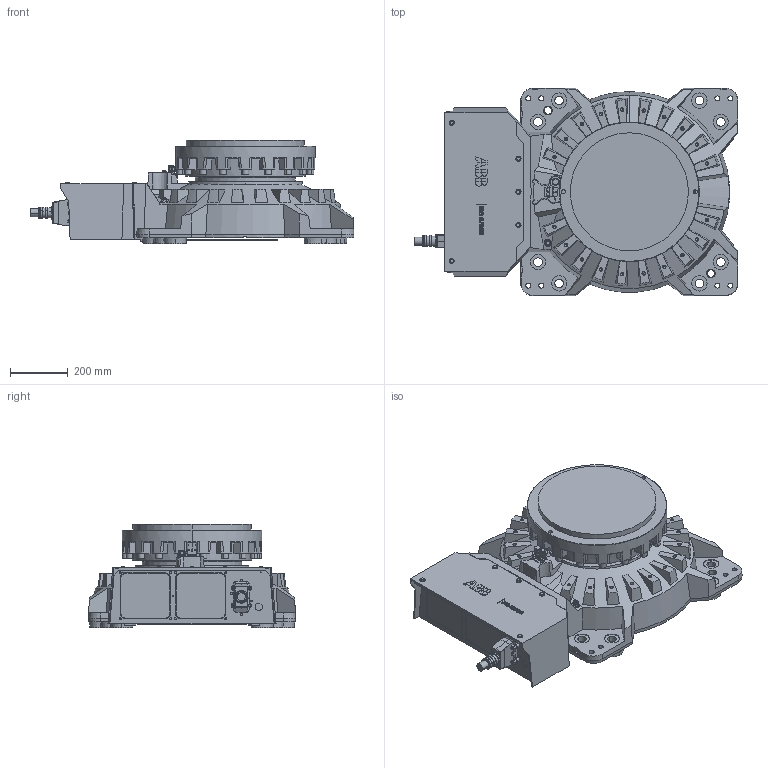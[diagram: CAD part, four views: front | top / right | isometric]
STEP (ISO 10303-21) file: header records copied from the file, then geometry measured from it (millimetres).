
FILE_DESCRIPTION (( 'STEP AP214' ), '1' );
FILE_NAME ('IRB6730S_All_OC_00_BASE_CAD.step', '2026-05-26T10:38:19', ( '' ), ( '' ), 'SwSTEP 2.0', 'SolidWorks 2024', '' );
FILE_SCHEMA (( 'AUTOMOTIVE_DESIGN' ));
Length unit declared in the file: millimetre
Products named in the file (1): IRB6730S_All_OC_00_BASE_CAD
Bounding box: 1124.5 x 720 x 359.4 mm (x, y, z)
Volume: 112344369.6 mm3; surface area: 3038822.3 mm2
Topology: 1 solids, 1 shells, 1564 faces, 4032 edges, 2586 vertices
Faces by surface type: plane 798, cylinder 376, cone 277, bspline 101, torus 7, sphere 5
Entity records: 69454 total; most frequent: CARTESIAN_POINT 14940, ORIENTED_EDGE 7976, DIRECTION 7427, EDGE_CURVE 3988, AXIS2_PLACEMENT_3D 2683, VERTEX_POINT 2586, LINE 2061, VECTOR 2061
